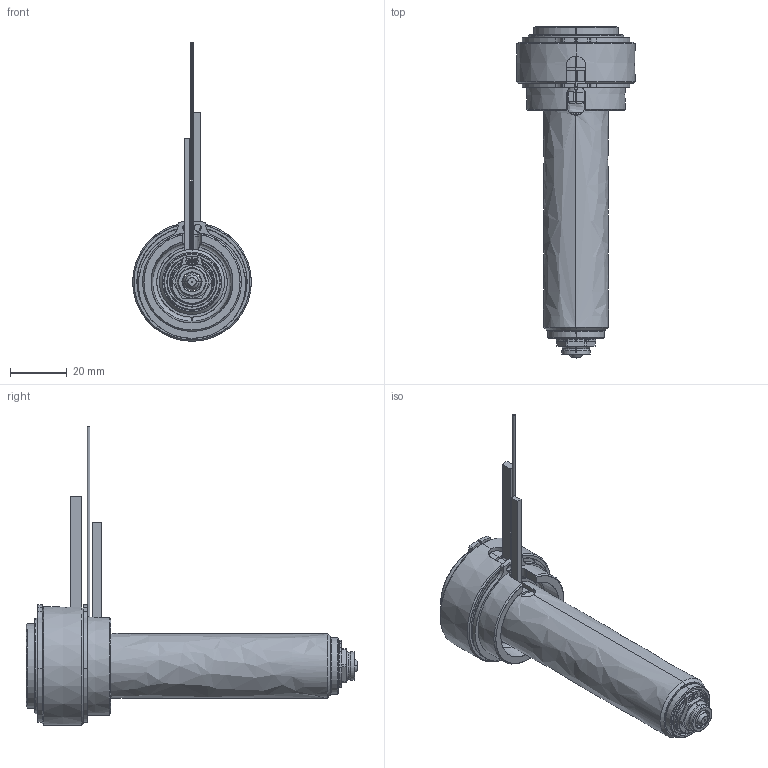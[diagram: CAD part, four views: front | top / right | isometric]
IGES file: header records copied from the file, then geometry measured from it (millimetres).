
Start section: SolidWorks IGES file using analytic representation for surfaces
Global section: file name: C:\Documents and Settings\ws-20\Desktop\TEM\UGER3552-M-A-1 [Øb-0.50  ØC-7.0].IGS; native system: SolidWorks 2012; preprocessor: SolidWorks 2012; author: ws-20; date: 120410.100529; units: millimetre
Bounding box: 42 x 117.4 x 105.6 mm (x, y, z)
Surface area: 37490.3 mm2 (no closed solid volume)
Topology: 0 solids, 0 shells, 198 faces, 3252 edges, 3252 vertices
Faces by surface type: revolution 126, bspline 72
